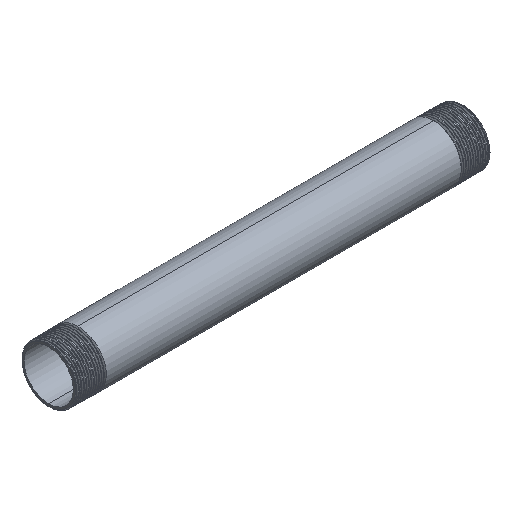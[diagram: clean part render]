
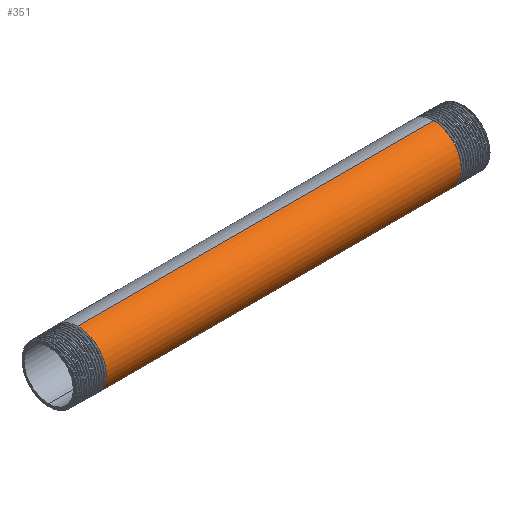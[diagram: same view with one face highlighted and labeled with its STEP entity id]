
A CAD part, isometric view. The second image highlights one B-rep face of the part: STEP entity #351.
In plain terms, the highlighted cylindrical face has radius 16.85 mm (diameter 33.7 mm), a partial arc.
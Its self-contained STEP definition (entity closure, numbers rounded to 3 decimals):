
#109 = CARTESIAN_POINT ( 'NONE',  ( 107.25, -11.915, 11.915 ) ) ;
#160 = VERTEX_POINT ( 'NONE', #2530 ) ;
#175 = VERTEX_POINT ( 'NONE', #6475 ) ;
#351 = ADVANCED_FACE ( 'NONE', ( #2589 ), #9713, .T. ) ;
#894 = CARTESIAN_POINT ( 'NONE',  ( 107.344, -6.979, 16.85 ) ) ;
#1036 = ORIENTED_EDGE ( 'NONE', *, *, #5887, .T. ) ;
#1075 = DIRECTION ( 'NONE',  ( -1., 0., 0. ) ) ;
#1117 = AXIS2_PLACEMENT_3D ( 'NONE', #1185, #7303, #3412 ) ;
#1185 = CARTESIAN_POINT ( 'NONE',  ( -149.494, 0., 0. ) ) ;
#1354 = CARTESIAN_POINT ( 'NONE',  ( -106.875, -11.915, -11.915 ) ) ;
#1404 = CARTESIAN_POINT ( 'NONE',  ( -106.781, -6.979, -16.85 ) ) ;
#1454 = CARTESIAN_POINT ( 'NONE',  ( -107.25, -11.915, 11.915 ) ) ;
#1679 = CARTESIAN_POINT ( 'NONE',  ( 107.156, -16.85, 6.979 ) ) ;
#1862 = LINE ( 'NONE', #8116, #2636 ) ;
#2332 = CARTESIAN_POINT ( 'NONE',  ( -107.063, -16.85, 0. ) ) ;
#2456 = CARTESIAN_POINT ( 'NONE',  ( 107.063, -16.85, 0. ) ) ;
#2530 = CARTESIAN_POINT ( 'NONE',  ( 106.688, 0., -16.85 ) ) ;
#2533 =( BOUNDED_CURVE ( )  B_SPLINE_CURVE ( 2, ( #8487, #1404, #1354, #7719, #2332, #7614, #1454, #6948, #8581 ),
 .UNSPECIFIED., .F., .F. ) 
 B_SPLINE_CURVE_WITH_KNOTS ( ( 3, 2, 2, 2, 3 ),
 ( 0., 0.008, 0.017, 0.025, 0.033 ),
 .UNSPECIFIED. ) 
 CURVE ( )  GEOMETRIC_REPRESENTATION_ITEM ( )  RATIONAL_B_SPLINE_CURVE ( ( 1., 0.924, 1., 0.924, 1., 0.924, 1., 0.924, 1. ) ) 
 REPRESENTATION_ITEM ( '' )  );
#2589 = FACE_OUTER_BOUND ( 'NONE', #10026, .T. ) ;
#2591 = CARTESIAN_POINT ( 'NONE',  ( -149.494, 0., 16.85 ) ) ;
#2636 = VECTOR ( 'NONE', #1075, 1000. ) ;
#3207 = CARTESIAN_POINT ( 'NONE',  ( -106.688, 0., -16.85 ) ) ;
#3222 = CARTESIAN_POINT ( 'NONE',  ( 106.781, -6.979, -16.85 ) ) ;
#3281 = VECTOR ( 'NONE', #5672, 1000. ) ;
#3412 = DIRECTION ( 'NONE',  ( 0., 0., 1. ) ) ;
#3928 = LINE ( 'NONE', #2591, #3281 ) ;
#4509 = EDGE_CURVE ( 'NONE', #160, #5210, #1862, .T. ) ;
#4822 = CARTESIAN_POINT ( 'NONE',  ( 106.688, 0., -16.85 ) ) ;
#5210 = VERTEX_POINT ( 'NONE', #3207 ) ;
#5289 = ORIENTED_EDGE ( 'NONE', *, *, #9526, .T. ) ;
#5353 = ORIENTED_EDGE ( 'NONE', *, *, #4509, .F. ) ;
#5491 = VERTEX_POINT ( 'NONE', #9235 ) ;
#5672 = DIRECTION ( 'NONE',  ( -1., 0., 0. ) ) ;
#5786 = CARTESIAN_POINT ( 'NONE',  ( 107.438, 0., 16.85 ) ) ;
#5815 = EDGE_CURVE ( 'NONE', #5210, #175, #2533, .T. ) ;
#5887 = EDGE_CURVE ( 'NONE', #5491, #175, #3928, .T. ) ;
#6475 = CARTESIAN_POINT ( 'NONE',  ( -107.438, 0., 16.85 ) ) ;
#6948 = CARTESIAN_POINT ( 'NONE',  ( -107.344, -6.979, 16.85 ) ) ;
#7303 = DIRECTION ( 'NONE',  ( -1., 0., 0. ) ) ;
#7390 =( BOUNDED_CURVE ( )  B_SPLINE_CURVE ( 2, ( #4822, #3222, #9473, #9724, #2456, #1679, #109, #894, #5786 ),
 .UNSPECIFIED., .F., .T. ) 
 B_SPLINE_CURVE_WITH_KNOTS ( ( 3, 2, 2, 2, 3 ),
 ( 0., 0.008, 0.017, 0.025, 0.033 ),
 .UNSPECIFIED. ) 
 CURVE ( )  GEOMETRIC_REPRESENTATION_ITEM ( )  RATIONAL_B_SPLINE_CURVE ( ( 1., 0.924, 1., 0.924, 1., 0.924, 1., 0.924, 1. ) ) 
 REPRESENTATION_ITEM ( '' )  );
#7614 = CARTESIAN_POINT ( 'NONE',  ( -107.156, -16.85, 6.979 ) ) ;
#7719 = CARTESIAN_POINT ( 'NONE',  ( -106.969, -16.85, -6.979 ) ) ;
#7892 = ORIENTED_EDGE ( 'NONE', *, *, #5815, .F. ) ;
#8116 = CARTESIAN_POINT ( 'NONE',  ( -149.494, 0., -16.85 ) ) ;
#8487 = CARTESIAN_POINT ( 'NONE',  ( -106.688, 0., -16.85 ) ) ;
#8581 = CARTESIAN_POINT ( 'NONE',  ( -107.438, 0., 16.85 ) ) ;
#9235 = CARTESIAN_POINT ( 'NONE',  ( 107.438, 0., 16.85 ) ) ;
#9473 = CARTESIAN_POINT ( 'NONE',  ( 106.875, -11.915, -11.915 ) ) ;
#9526 = EDGE_CURVE ( 'NONE', #160, #5491, #7390, .T. ) ;
#9713 = CYLINDRICAL_SURFACE ( 'NONE', #1117, 16.85 ) ;
#9724 = CARTESIAN_POINT ( 'NONE',  ( 106.969, -16.85, -6.979 ) ) ;
#10026 = EDGE_LOOP ( 'NONE', ( #5353, #5289, #1036, #7892 ) ) ;
